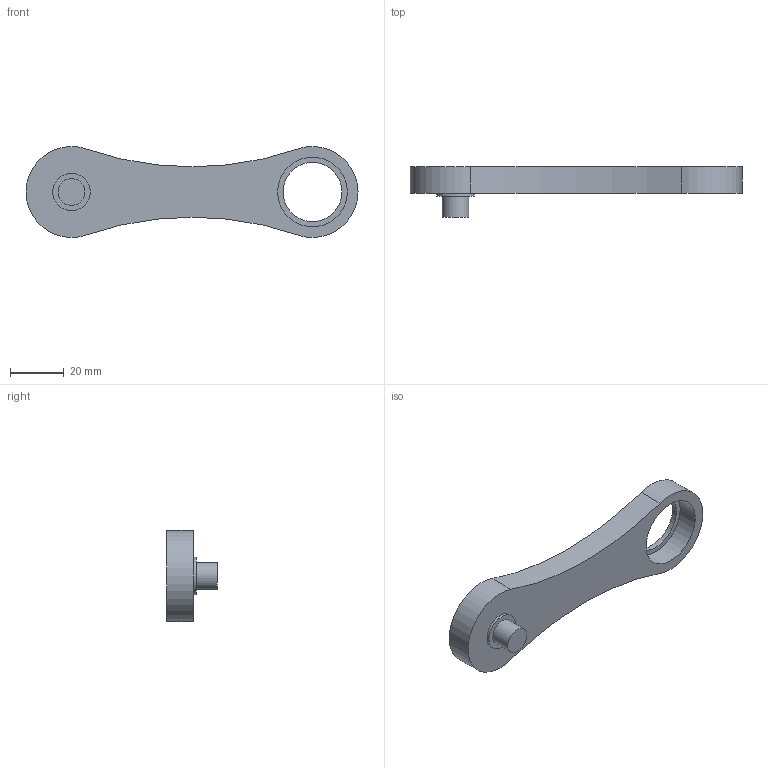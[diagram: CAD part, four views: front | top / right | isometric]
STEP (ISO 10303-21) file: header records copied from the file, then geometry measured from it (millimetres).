
FILE_DESCRIPTION(/* description */ (''),/* implementation_level */ '2;1');
FILE_NAME(/* name */ 'C:\Users\Jaime\Desktop\Universidad\MÁSTER ING. INDUSTRIAL\TFM\CD\Pieza_B.stp',/* time_stamp */ '2018-02-15T23:56:37+01:00',/* author */ ('Jaime'),/* organization */ (''),/* preprocessor_version */ 'ST-DEVELOPER v16.5',/* originating_system */ 'Autodesk Inventor 2017',/* authorisation */ '');
FILE_SCHEMA (('AUTOMOTIVE_DESIGN { 1 0 10303 214 3 1 1 }'));
Length unit declared in the file: millimetre
Products named in the file (1): Pieza_B
Bounding box: 124 x 19 x 34 mm (x, y, z)
Volume: 26859.1 mm3; surface area: 9445.8 mm2
Topology: 1 solids, 1 shells, 13 faces, 25 edges, 17 vertices
Faces by surface type: cylinder 8, plane 5
Full cylindrical faces by diameter (mm): 10 x1, 14 x1, 22 x1, 26 x1
Entity records: 342 total; most frequent: DIRECTION 64, CARTESIAN_POINT 50, ORIENTED_EDGE 40, AXIS2_PLACEMENT_3D 30, EDGE_LOOP 22, EDGE_CURVE 20, CIRCLE 16, VERTEX_POINT 16
